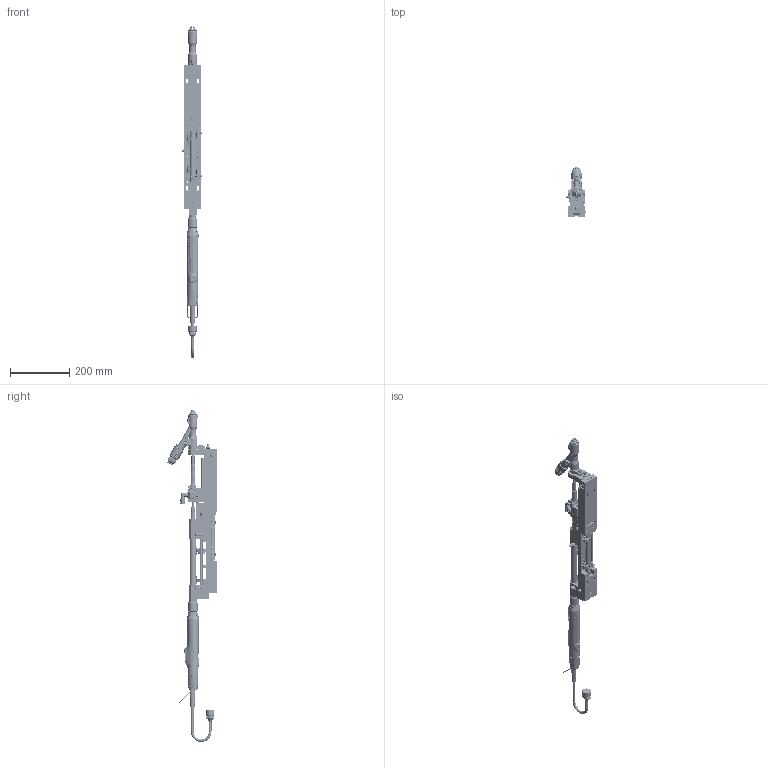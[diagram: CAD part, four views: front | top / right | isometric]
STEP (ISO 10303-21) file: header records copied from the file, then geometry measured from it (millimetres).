
FILE_DESCRIPTION(/* description */ (''),/* implementation_level */ '2;1');
FILE_NAME(/* name */ 'G:\Modelle für Marketing\3Ds Parasolid\3D_Parasolid_automatic_screwdriver_for_screws_with_vacuum_unit_SEV2001_series.x_b.ipt.stp',/* time_stamp */ '2016-07-28T11:55:02+02:00',/* author */ ('Wolf'),/* organization */ (''),/* preprocessor_version */ 'ST-DEVELOPER v15.2',/* originating_system */ 'Autodesk Inventor 2014',/* authorisation */ '');
FILE_SCHEMA (('AUTOMOTIVE_DESIGN { 1 0 10303 214 3 1 1 }'));
Products named in the file (1): 3D_Parasolid_automatic_screwdriver_for_screws_with_vacuum_unit_SEV200
1_series.x_b
Bounding box: 69.5 x 166.22 x 1116.48 mm (x, y, z)
Volume: 1614767.9 mm3; surface area: 519874.6 mm2
Topology: 57 solids, 113 shells, 5426 faces, 13931 edges, 9036 vertices
Faces by surface type: plane 2764, cylinder 1618, cone 466, bspline 383, torus 151, sphere 44
Full cylindrical faces by diameter (mm): 1 x2, 1.3 x2, 1.5 x2, 2 x7, 2.1 x2, 2.19 x1, 2.2 x1, 2.3 x3, 2.38 x2, 2.42 x2, 2.459 x7, 2.5 x1, 2.8 x3, 3 x24, 3.02 x2, 3.04 x3, 3.2 x3, 3.242 x23, 3.5 x4, 3.6 x3, 3.8 x4, 4 x28, 4.02 x1, 4.1 x2, 4.134 x19, 4.2 x1, 4.3 x14, 4.5 x11, 4.6 x1, 4.7 x1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
Entity records: 208584 total; most frequent: CARTESIAN_POINT 83296, ORIENTED_EDGE 24648, DIRECTION 23287, EDGE_CURVE 12324, AXIS2_PLACEMENT_3D 8960, VERTEX_POINT 8561, EDGE_LOOP 7211, ADVANCED_FACE 5425
